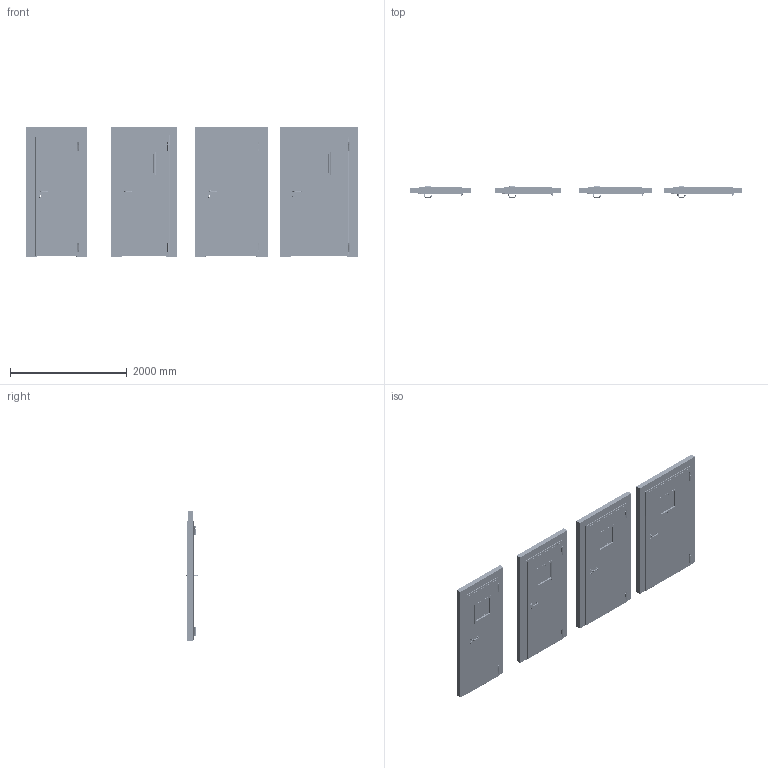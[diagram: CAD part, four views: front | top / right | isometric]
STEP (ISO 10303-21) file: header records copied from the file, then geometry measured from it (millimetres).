
FILE_DESCRIPTION(/* description */ (''),/* implementation_level */ '2;1');
FILE_NAME(/* name */ '050184_A_2-Drzwi techniczne stalowe EI30 PLUS model 2 na ościeżnicy stalowej..stp',/* time_stamp */ '2024-10-04T11:38:47+02:00',/* author */ (''),/* organization */ (''),/* preprocessor_version */ 'ST-DEVELOPER v16',/* originating_system */ 'SIEMENS PLM Software NX 11.0',/* authorisation */ '');
FILE_SCHEMA (('AUTOMOTIVE_DESIGN { 1 0 10303 214 3 1 1 1 }'));
Products named in the file (1): bkni06E8228Bu005
Bounding box: 5695 x 195.85 x 2216 mm (x, y, z)
Volume: 1047467972.9 mm3; surface area: 121184262 mm2
Topology: 443 solids, 443 shells, 12352 faces, 33018 edges, 21744 vertices
Faces by surface type: plane 7443, cylinder 2993, bspline 648, extrusion 552, cone 512, torus 200, sphere 4
Full cylindrical faces by diameter (mm): 1.9 x32, 3 x16, 3.1 x64, 3.6 x4, 3.9 x64, 4.2 x232, 5 x84, 5.795 x24, 6 x64, 7.4 x32, 7.5 x64, 8.1 x4, 10 x16, 11 x64, 11.3 x24, 12 x32, 14 x24, 16.8 x136, 17 x4, 17.2 x32, 19 x32, 19.2 x64, 19.3 x16, 24 x28, 25 x60, 54 x16
Entity records: 382841 total; most frequent: CARTESIAN_POINT 78725, ORIENTED_EDGE 61156, DIRECTION 58198, EDGE_CURVE 30578, VECTOR 21856, LINE 21304, VERTEX_POINT 21268, AXIS2_PLACEMENT_3D 18171
